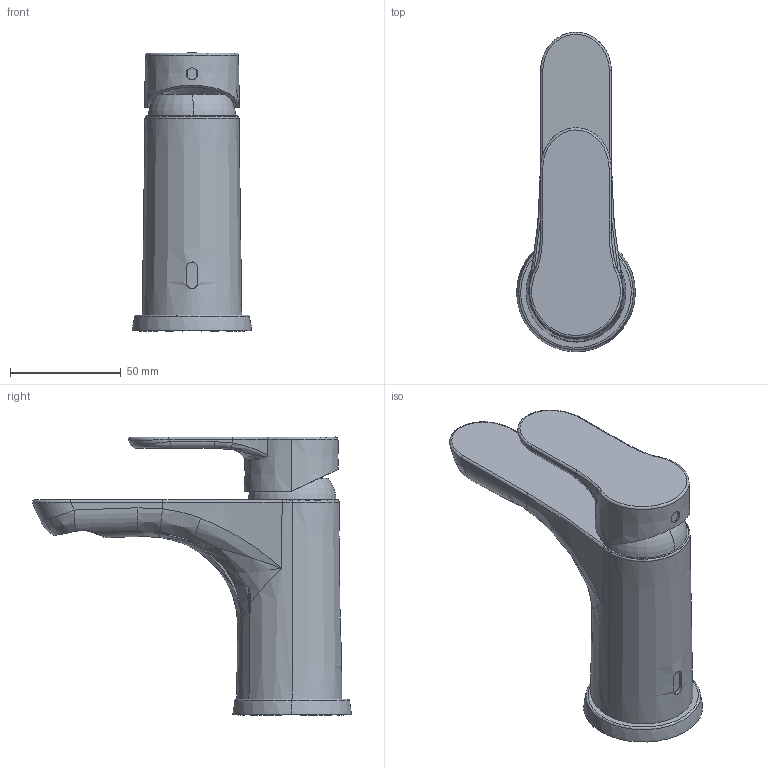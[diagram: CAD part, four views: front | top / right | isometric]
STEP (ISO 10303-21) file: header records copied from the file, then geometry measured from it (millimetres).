
FILE_DESCRIPTION (( 'STEP AP203' ), '1' );
FILE_NAME ('AALB010CR x architetti.STEP', '2023-10-27T09:35:35', ( '' ), ( '' ), 'SwSTEP 2.0', 'SolidWorks 2020', '' );
FILE_SCHEMA (( 'CONFIG_CONTROL_DESIGN' ));
Length unit declared in the file: millimetre
Products named in the file (1): AALB010CR  x architetti
Bounding box: 53.69 x 144.31 x 125.68 mm (x, y, z)
Volume: 248952.2 mm3; surface area: 47068.5 mm2
Topology: 2 solids, 4 shells, 221 faces, 583 edges, 373 vertices
Faces by surface type: bspline 70, plane 65, cylinder 59, cone 16, torus 11
Entity records: 10535 total; most frequent: CARTESIAN_POINT 5683, ORIENTED_EDGE 1162, DIRECTION 794, EDGE_CURVE 581, VERTEX_POINT 373, AXIS2_PLACEMENT_3D 319, EDGE_LOOP 230, B_SPLINE_CURVE_WITH_KNOTS 225
